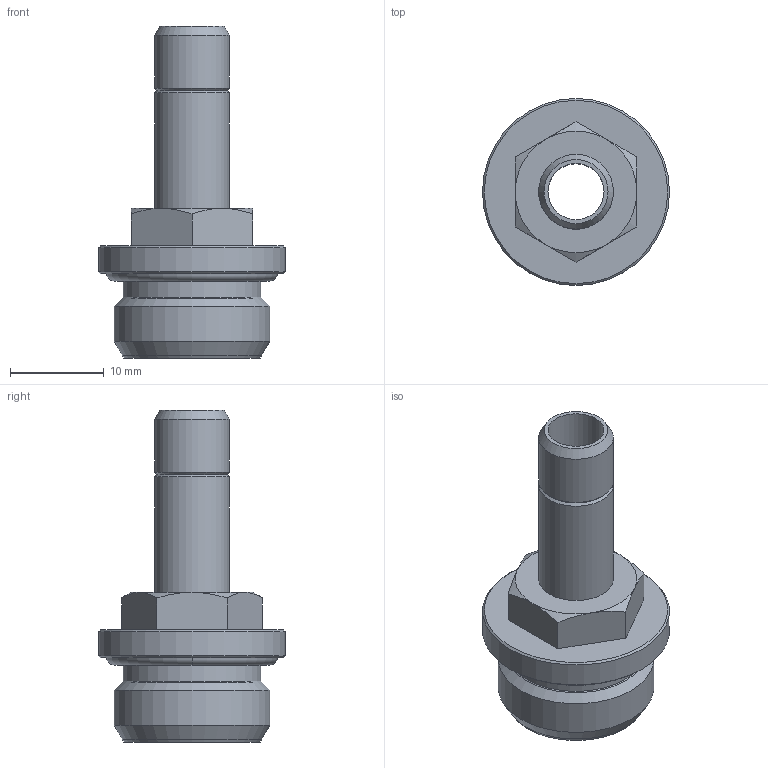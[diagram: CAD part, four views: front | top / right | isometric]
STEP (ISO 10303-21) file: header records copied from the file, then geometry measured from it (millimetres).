
FILE_DESCRIPTION(('Bauteilbeschreibung','HiCAD-Model','HiCAD-STEP-TRANSLATION','Bauteilbeschreibung'),'2;1');
FILE_NAME('B:/ABGLEICH/ZEICHNUNGEN/STEP FÜR INTERNET/STEP/IPSO 016/200611_IPSO_06_8_3-8.STP','2012-03-01T14:02:45+00:00',('Konstrukteur'),('Konstrukteur Firma GmbH'),' HiCAD neXt 2008, Step 3.1.1401.2J ','HiCAD neXt 2008','confidential');
FILE_SCHEMA(('AUTOMOTIVE_DESIGN { 1 2 10303 214 0 1 1 1 }'));
Length unit declared in the file: millimetre
Products named in the file (5): A00611_IPSO_06_8_3_8; A00611_N; A006110N; G 3_8; OR 14X1_78
Assembly tree (4 placements, depth 3):
  A00611_IPSO_06_8_3_8
    A00611_N
    A006110N
      G 3_8
    OR 14X1_78
Bounding box: 20 x 20 x 35.5 mm (x, y, z)
Volume: 2824.7 mm3; surface area: 3575.2 mm2
Topology: 3 solids, 3 shells, 45 faces, 95 edges, 56 vertices
Faces by surface type: cone 18, plane 12, cylinder 9, torus 6
Full cylindrical faces by diameter (mm): 6 x1, 8 x2, 9 x1, 14.75 x1, 14.95 x2, 16.662 x1, 20 x1
Entity records: 1444 total; most frequent: DIRECTION 202, CARTESIAN_POINT 193, ORIENTED_EDGE 132, AXIS2_PLACEMENT_3D 95, EDGE_LOOP 74, EDGE_CURVE 66, COLOUR_RGB 61, PRESENTATION_STYLE_ASSIGNMENT 61
